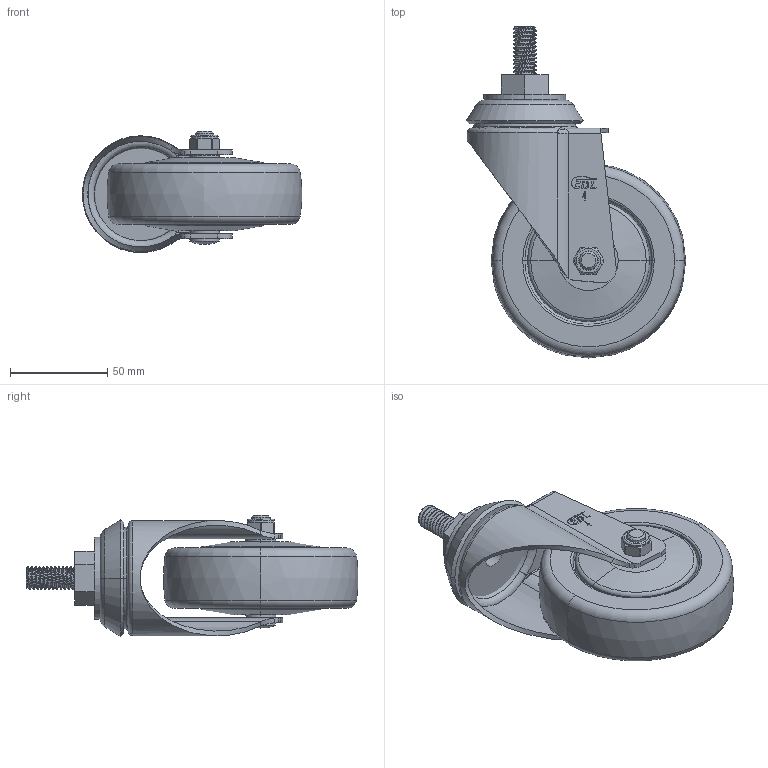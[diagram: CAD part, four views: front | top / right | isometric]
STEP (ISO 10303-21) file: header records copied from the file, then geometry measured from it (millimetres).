
FILE_DESCRIPTION((''),'2;1');
FILE_NAME('57234-574-77_ASM','2022-02-28T',('lenovo'),(''),'PRO/ENGINEER BY PARAMETRIC TECHNOLOGY CORPORATION, 2010280','PRO/ENGINEER BY PARAMETRIC TECHNOLOGY CORPORATION, 2010280','');
FILE_SCHEMA(('CONFIG_CONTROL_DESIGN'));
Length unit declared in the file: millimetre
Products named in the file (7): 5010-053_M12; 5724-311; 5720-211; 574-77; 5710-020; 5710-031; 57234-574-77_ASM
Assembly tree (6 placements, depth 2):
  57234-574-77_ASM
    5010-053_M12
    5724-311
    5720-211
    574-77
    5710-020
    5710-031
Bounding box: 112.61 x 170.41 x 62.25 mm (x, y, z)
Volume: 311146.9 mm3; surface area: 67492.1 mm2
Topology: 6 solids, 6 shells, 299 faces, 725 edges, 444 vertices
Faces by surface type: plane 95, cylinder 89, bspline 43, torus 37, cone 33, sphere 2
Entity records: 13465 total; most frequent: CARTESIAN_POINT 6610, ORIENTED_EDGE 1430, DIRECTION 1354, EDGE_CURVE 715, AXIS2_PLACEMENT_3D 523, VERTEX_POINT 442, EDGE_LOOP 323, VECTOR 308
